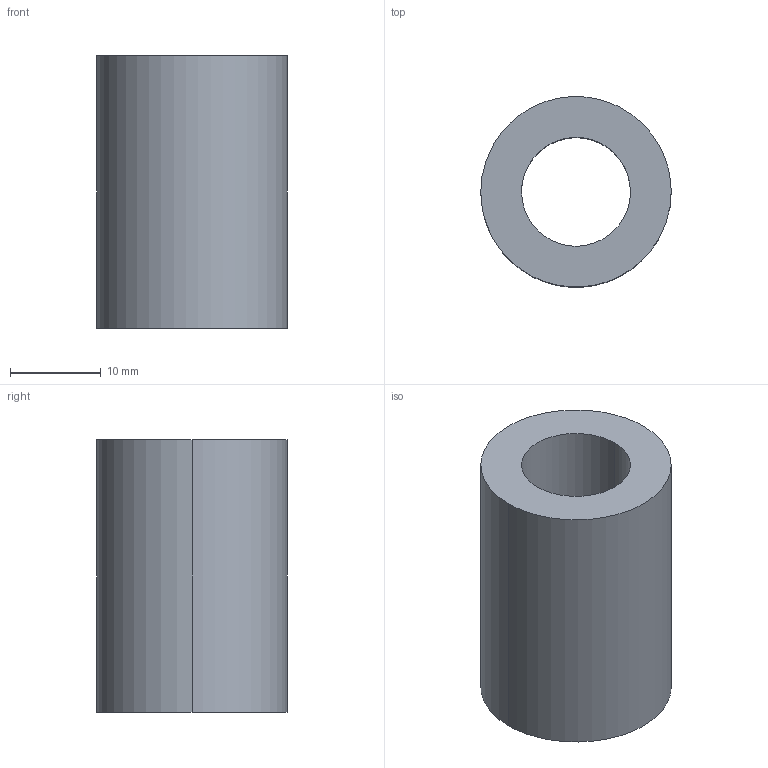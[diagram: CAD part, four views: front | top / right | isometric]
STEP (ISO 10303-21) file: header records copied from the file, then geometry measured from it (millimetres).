
FILE_DESCRIPTION(/* description */ (''),/* implementation_level */ '2;1');
FILE_NAME(/* name */ 'LM12UU',/* time_stamp */ '2019-04-01T20:11:11-03:00',/* author */ (''),/* organization */ (''),/* preprocessor_version */ 'ST-DEVELOPER v16.5',/* originating_system */ '',/* authorisation */ '');
FILE_SCHEMA (('AUTOMOTIVE_DESIGN'));
Length unit declared in the file: millimetre
Products named in the file (1): Document
Bounding box: 21 x 20.96 x 30 mm (x, y, z)
Volume: 7000.3 mm3; surface area: 3581 mm2
Topology: 1 solids, 1 shells, 6 faces, 12 edges, 8 vertices
Faces by surface type: bspline 4, plane 2
Entity records: 197 total; most frequent: CARTESIAN_POINT 100, ORIENTED_EDGE 24, EDGE_CURVE 12, EDGE_LOOP 8, VERTEX_POINT 8, ADVANCED_FACE 6, FACE_OUTER_BOUND 6, DIRECTION 6
